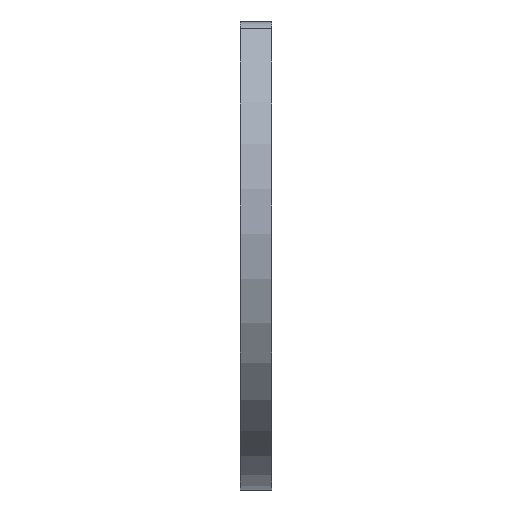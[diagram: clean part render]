
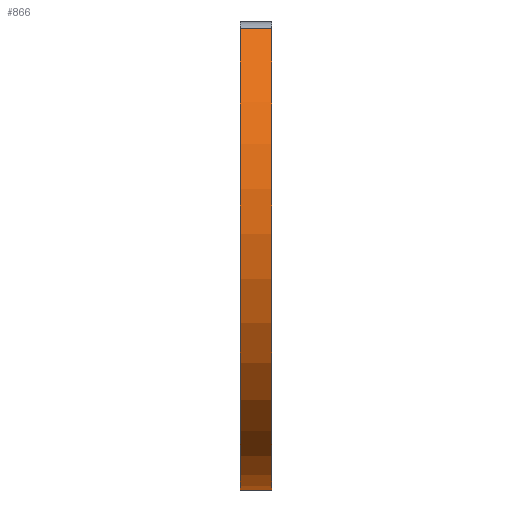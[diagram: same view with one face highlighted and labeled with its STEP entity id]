
A CAD part, left-side view. The second image highlights one B-rep face of the part: STEP entity #866.
In plain terms, the highlighted cylindrical face has radius 9.4 mm (diameter 18.8 mm), a partial arc.
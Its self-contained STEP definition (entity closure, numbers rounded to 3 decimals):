
#9 = AXIS2_PLACEMENT_3D ( 'NONE', #751, #316, #238 ) ;
#50 = VECTOR ( 'NONE', #607, 1000. ) ;
#59 = CARTESIAN_POINT ( 'NONE',  ( 0., -0.55, -9.4 ) ) ;
#90 = LINE ( 'NONE', #401, #553 ) ;
#149 = ORIENTED_EDGE ( 'NONE', *, *, #555, .T. ) ;
#189 = CARTESIAN_POINT ( 'NONE',  ( -6.591, 0.55, 6.703 ) ) ;
#204 = ORIENTED_EDGE ( 'NONE', *, *, #730, .F. ) ;
#226 = AXIS2_PLACEMENT_3D ( 'NONE', #932, #786, #344 ) ;
#238 = DIRECTION ( 'NONE',  ( 0., 0., -1. ) ) ;
#259 = ORIENTED_EDGE ( 'NONE', *, *, #412, .T. ) ;
#316 = DIRECTION ( 'NONE',  ( 0., -1., 0. ) ) ;
#332 = CARTESIAN_POINT ( 'NONE',  ( -6.591, -0.55, 6.703 ) ) ;
#344 = DIRECTION ( 'NONE',  ( 0., 0., 1. ) ) ;
#395 = CARTESIAN_POINT ( 'NONE',  ( 0., 0.55, -9.4 ) ) ;
#401 = CARTESIAN_POINT ( 'NONE',  ( 0., 0.55, -9.4 ) ) ;
#410 = EDGE_LOOP ( 'NONE', ( #204, #713, #149, #259 ) ) ;
#412 = EDGE_CURVE ( 'NONE', #533, #738, #515, .T. ) ;
#500 = FACE_OUTER_BOUND ( 'NONE', #410, .T. ) ;
#515 = LINE ( 'NONE', #189, #50 ) ;
#533 = VERTEX_POINT ( 'NONE', #332 ) ;
#542 = DIRECTION ( 'NONE',  ( 0., 1., 0. ) ) ;
#553 = VECTOR ( 'NONE', #842, 1000. ) ;
#555 = EDGE_CURVE ( 'NONE', #579, #533, #611, .T. ) ;
#579 = VERTEX_POINT ( 'NONE', #59 ) ;
#604 = EDGE_CURVE ( 'NONE', #927, #579, #90, .T. ) ;
#607 = DIRECTION ( 'NONE',  ( 0., 1., 0. ) ) ;
#611 = CIRCLE ( 'NONE', #808, 9.4 ) ;
#633 = CARTESIAN_POINT ( 'NONE',  ( -6.591, 0.55, 6.703 ) ) ;
#713 = ORIENTED_EDGE ( 'NONE', *, *, #604, .T. ) ;
#730 = EDGE_CURVE ( 'NONE', #927, #738, #912, .T. ) ;
#738 = VERTEX_POINT ( 'NONE', #633 ) ;
#751 = CARTESIAN_POINT ( 'NONE',  ( 0., 0.55, 0. ) ) ;
#786 = DIRECTION ( 'NONE',  ( 0., 1., 0. ) ) ;
#808 = AXIS2_PLACEMENT_3D ( 'NONE', #916, #542, #908 ) ;
#842 = DIRECTION ( 'NONE',  ( 0., -1., 0. ) ) ;
#851 = CYLINDRICAL_SURFACE ( 'NONE', #9, 9.4 ) ;
#866 = ADVANCED_FACE ( 'NONE', ( #500 ), #851, .T. ) ;
#908 = DIRECTION ( 'NONE',  ( 0., 0., 1. ) ) ;
#912 = CIRCLE ( 'NONE', #226, 9.4 ) ;
#916 = CARTESIAN_POINT ( 'NONE',  ( 0., -0.55, 0. ) ) ;
#927 = VERTEX_POINT ( 'NONE', #395 ) ;
#932 = CARTESIAN_POINT ( 'NONE',  ( 0., 0.55, 0. ) ) ;
